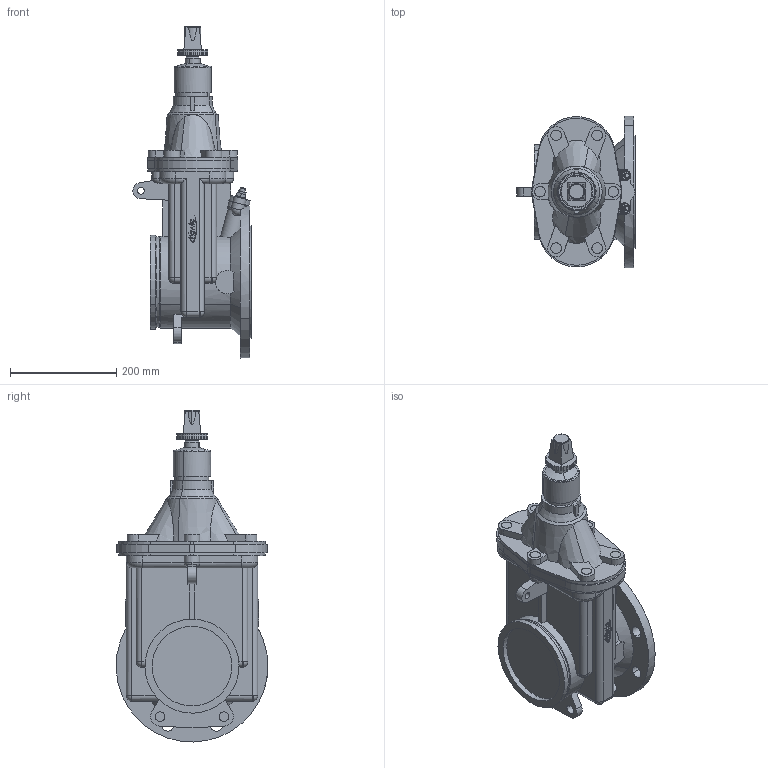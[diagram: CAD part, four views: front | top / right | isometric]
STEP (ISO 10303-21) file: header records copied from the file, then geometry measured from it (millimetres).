
FILE_DESCRIPTION(('CATIA V5 STEP Exchange','CAx-IF Rec.Pracs.--- Model Styling and Organization---1.2---2011-12-15'),'2;1');
FILE_NAME('S:\USER\CAT6\3DPlanerdaten_ab_2012\_pit-cup_ab_03-10-2016\4420\CATIA\4190E2_PN16_DN150-sauber.stp','2018-04-16T12:25:40+00:00',('none'),('none'),'CATIA Version 5 Release 21 SP 5 (IN-10)','CATIA V5 STEP AP214 Edition 3','none');
FILE_SCHEMA(('AUTOMOTIVE_DESIGN { 1 0 10303 214 3 1 1 1 }'));
Length unit declared in the file: millimetre
Products named in the file (1): 4190E2_PN16_DN150
Bounding box: 222.5 x 285.54 x 624.76 mm (x, y, z)
Volume: 11047644.7 mm3; surface area: 558371.5 mm2
Topology: 19 solids, 23 shells, 875 faces, 2337 edges, 1516 vertices
Faces by surface type: plane 642, cylinder 173, cone 32, sphere 16, torus 12
Entity records: 28133 total; most frequent: CARTESIAN_POINT 6158, ORIENTED_EDGE 4642, DIRECTION 3730, EDGE_CURVE 2321, VECTOR 1789, LINE 1789, VERTEX_POINT 1516, AXIS2_PLACEMENT_3D 1151
